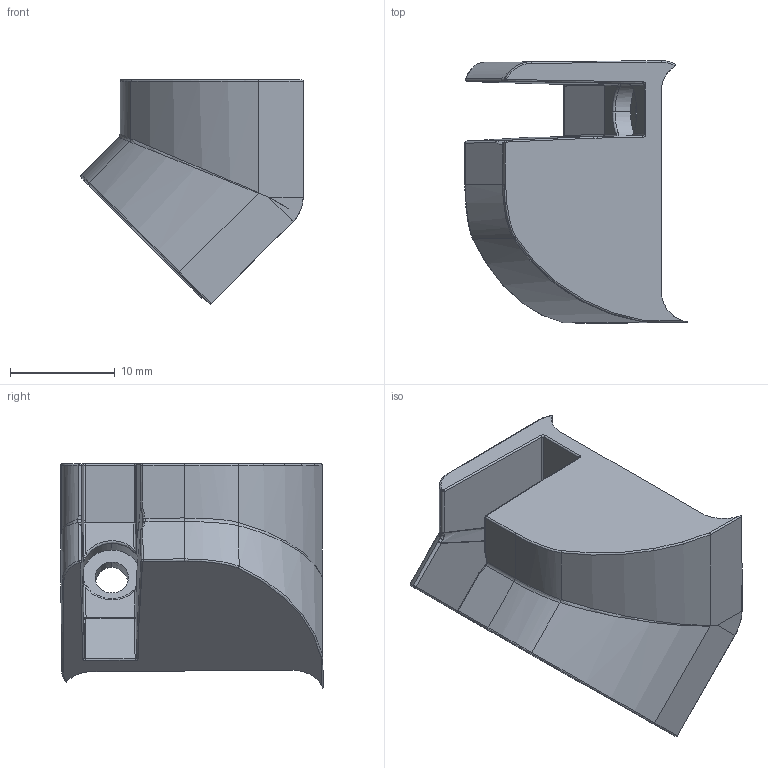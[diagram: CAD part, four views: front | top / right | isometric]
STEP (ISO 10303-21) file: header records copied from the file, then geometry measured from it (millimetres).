
FILE_DESCRIPTION (( 'STEP AP203' ), '1' );
FILE_NAME ('013.025.124.STEP', '2020-09-21T07:08:25', ( '' ), ( '' ), 'SwSTEP 2.0', 'SolidWorks 2018', '' );
FILE_SCHEMA (( 'CONFIG_CONTROL_DESIGN' ));
Length unit declared in the file: millimetre
Products named in the file (1): 013.025.124
Bounding box: 21.26 x 25.07 x 21.46 mm (x, y, z)
Volume: 1972.2 mm3; surface area: 2960 mm2
Topology: 1 solids, 1 shells, 193 faces, 464 edges, 263 vertices
Faces by surface type: cylinder 64, bspline 49, plane 34, torus 30, cone 9, sphere 7
Entity records: 6538 total; most frequent: CARTESIAN_POINT 2411, ORIENTED_EDGE 910, DIRECTION 803, EDGE_CURVE 455, AXIS2_PLACEMENT_3D 325, VERTEX_POINT 263, EDGE_LOOP 194, FACE_OUTER_BOUND 193
